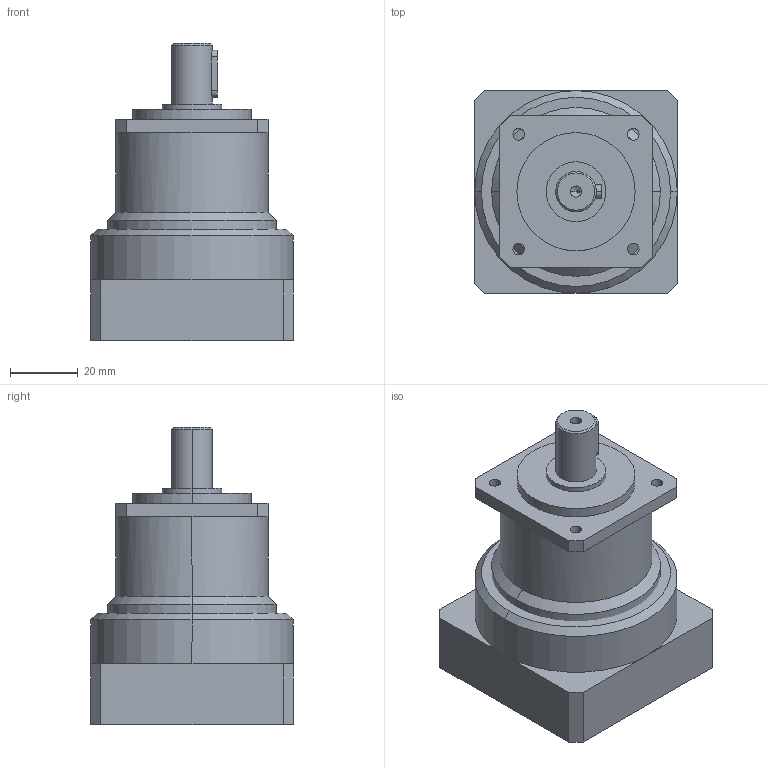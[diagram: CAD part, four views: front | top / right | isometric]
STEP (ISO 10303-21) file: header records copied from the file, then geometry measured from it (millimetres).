
FILE_DESCRIPTION (( 'STEP AP203' ), '1' );
FILE_NAME ('PLF-040L1.STEP', '2007-05-27T05:25:52', ( 'ad' ), ( '' ), 'SwSTEP 2.0', 'SolidWorks 2012', '' );
FILE_SCHEMA (( 'CONFIG_CONTROL_DESIGN' ));
Length unit declared in the file: millimetre
Products named in the file (1): PLF-040L1
Bounding box: 60 x 60 x 88 mm (x, y, z)
Volume: 189479.8 mm3; surface area: 30079.1 mm2
Topology: 2 solids, 2 shells, 94 faces, 227 edges, 134 vertices
Faces by surface type: plane 41, cylinder 37, cone 16
Entity records: 2805 total; most frequent: CARTESIAN_POINT 506, DIRECTION 500, ORIENTED_EDGE 434, EDGE_CURVE 217, AXIS2_PLACEMENT_3D 192, VERTEX_POINT 134, LINE 116, VECTOR 116
